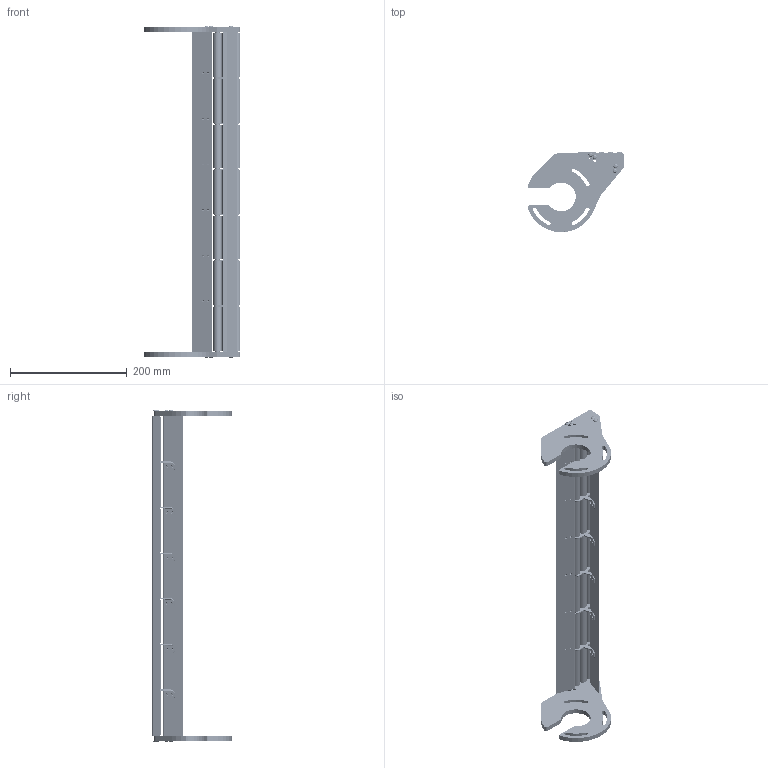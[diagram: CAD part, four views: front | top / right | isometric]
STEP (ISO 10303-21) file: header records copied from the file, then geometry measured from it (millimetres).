
FILE_DESCRIPTION (( 'STEP AP214' ), '1' );
FILE_NAME ('CAB 21 TGRI 1.STEP', '2024-02-27T08:06:26', ( '' ), ( '' ), 'SwSTEP 2.0', 'SolidWorks 2022', '' );
FILE_SCHEMA (( 'AUTOMOTIVE_DESIGN' ));
Length unit declared in the file: millimetre
Products named in the file (13): GR CAB 21; PSTI CAB 1; SA TGRI + ENTRETOISE; ENTRETOISE TGRI CAB-F2-R-HEF; TBHC 4X16; SA TGRI; PSTI CAB 1 Symétrie; ROULEMENT TGRI CAB FLEXTOO; Galet + roulement CAB 21; AXE TGRI CAB 21; PT-F2 - CAB 21 ALU; CAB 21 TGRI 1; ENTRETOISE SA TGRI
Assembly tree (55 placements, depth 3):
  CAB 21 TGRI 1
    PSTI CAB 1 Symétrie
    PSTI CAB 1
    PT-F2 - CAB 21 ALU  x2
    AXE TGRI CAB 21  x3
    ENTRETOISE TGRI CAB-F2-R-HEF  x6
    SA TGRI + ENTRETOISE  x6
      SA TGRI
      ENTRETOISE SA TGRI
    Galet + roulement CAB 21  x21
      GR CAB 21
      ROULEMENT TGRI CAB FLEXTOO
    TBHC 4X16  x8
Bounding box: 164.87 x 136.6 x 567.78 mm (x, y, z)
Volume: 721124 mm3; surface area: 346821.9 mm2
Topology: 108 solids, 108 shells, 3746 faces, 8412 edges, 5026 vertices
Faces by surface type: cylinder 1348, cone 1032, plane 648, torus 610, sphere 78, bspline 30
Entity records: 17945 total; most frequent: CARTESIAN_POINT 3341, DIRECTION 3206, ORIENTED_EDGE 2642, EDGE_CURVE 1321, AXIS2_PLACEMENT_3D 1305, VERTEX_POINT 801, CIRCLE 687, EDGE_LOOP 622
